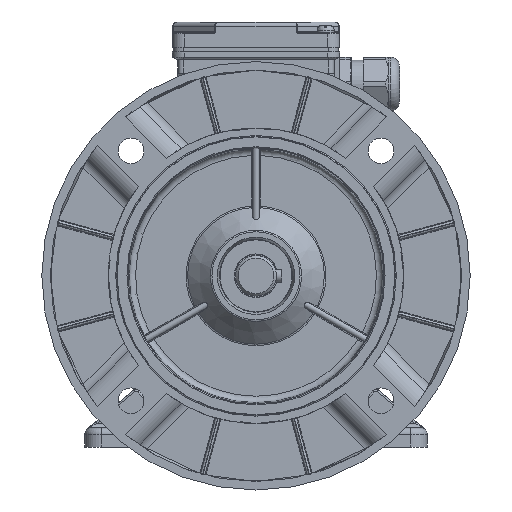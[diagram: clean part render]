
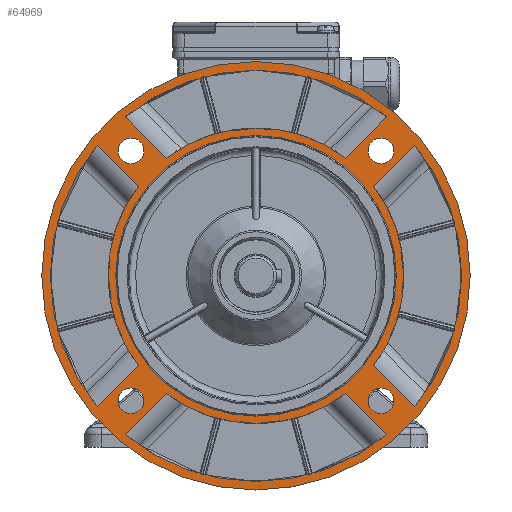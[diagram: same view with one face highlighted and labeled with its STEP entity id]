
A CAD part, left-side view. The second image highlights one B-rep face of the part: STEP entity #64969.
In plain terms, the highlighted planar face has unit normal (-1, 0, 0).
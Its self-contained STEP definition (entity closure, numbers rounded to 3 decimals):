
#4300=LINE('',#99883,#7999);
#4301=LINE('',#99888,#8000);
#4302=LINE('',#99891,#8001);
#4303=LINE('',#99896,#8002);
#4304=LINE('',#99901,#8003);
#4305=LINE('',#99906,#8004);
#4306=LINE('',#99909,#8005);
#4307=LINE('',#99914,#8006);
#7999=VECTOR('',#79109,1000.);
#8000=VECTOR('',#79112,1000.);
#8001=VECTOR('',#79115,1000.);
#8002=VECTOR('',#79118,1000.);
#8003=VECTOR('',#79123,1000.);
#8004=VECTOR('',#79126,1000.);
#8005=VECTOR('',#79129,1000.);
#8006=VECTOR('',#79132,1000.);
#18903=ORIENTED_EDGE('',*,*,#28950,.T.);
#18904=ORIENTED_EDGE('',*,*,#28951,.T.);
#18905=ORIENTED_EDGE('',*,*,#28952,.T.);
#18906=ORIENTED_EDGE('',*,*,#28953,.T.);
#18907=ORIENTED_EDGE('',*,*,#28954,.T.);
#18908=ORIENTED_EDGE('',*,*,#28955,.T.);
#18909=ORIENTED_EDGE('',*,*,#28956,.T.);
#18910=ORIENTED_EDGE('',*,*,#28957,.T.);
#18911=ORIENTED_EDGE('',*,*,#28828,.F.);
#18912=ORIENTED_EDGE('',*,*,#28827,.F.);
#18913=ORIENTED_EDGE('',*,*,#28826,.F.);
#18914=ORIENTED_EDGE('',*,*,#28825,.F.);
#18915=ORIENTED_EDGE('',*,*,#28958,.T.);
#18916=ORIENTED_EDGE('',*,*,#28949,.T.);
#18917=ORIENTED_EDGE('',*,*,#28959,.T.);
#18918=ORIENTED_EDGE('',*,*,#28960,.T.);
#18919=ORIENTED_EDGE('',*,*,#28961,.T.);
#18920=ORIENTED_EDGE('',*,*,#28962,.T.);
#18921=ORIENTED_EDGE('',*,*,#28963,.T.);
#18922=ORIENTED_EDGE('',*,*,#28964,.T.);
#18923=ORIENTED_EDGE('',*,*,#28965,.T.);
#18924=ORIENTED_EDGE('',*,*,#28966,.T.);
#28825=EDGE_CURVE('',#34570,#34570,#37721,.T.);
#28826=EDGE_CURVE('',#34571,#34571,#37722,.T.);
#28827=EDGE_CURVE('',#34572,#34572,#37723,.T.);
#28828=EDGE_CURVE('',#34573,#34573,#37724,.T.);
#28949=EDGE_CURVE('',#34651,#34651,#37738,.T.);
#28950=EDGE_CURVE('',#34652,#34653,#4300,.T.);
#28951=EDGE_CURVE('',#34653,#34654,#37739,.T.);
#28952=EDGE_CURVE('',#34654,#34655,#4301,.T.);
#28953=EDGE_CURVE('',#34655,#34652,#37740,.T.);
#28954=EDGE_CURVE('',#34656,#34657,#4302,.T.);
#28955=EDGE_CURVE('',#34657,#34658,#37741,.T.);
#28956=EDGE_CURVE('',#34658,#34659,#4303,.T.);
#28957=EDGE_CURVE('',#34659,#34656,#37742,.T.);
#28958=EDGE_CURVE('',#34660,#34660,#37743,.F.);
#28959=EDGE_CURVE('',#34661,#34662,#4304,.T.);
#28960=EDGE_CURVE('',#34662,#34663,#37744,.T.);
#28961=EDGE_CURVE('',#34663,#34664,#4305,.T.);
#28962=EDGE_CURVE('',#34664,#34661,#37745,.T.);
#28963=EDGE_CURVE('',#34665,#34666,#4306,.T.);
#28964=EDGE_CURVE('',#34666,#34667,#37746,.T.);
#28965=EDGE_CURVE('',#34667,#34668,#4307,.T.);
#28966=EDGE_CURVE('',#34668,#34665,#37747,.T.);
#34570=VERTEX_POINT('',#99573);
#34571=VERTEX_POINT('',#99576);
#34572=VERTEX_POINT('',#99579);
#34573=VERTEX_POINT('',#99582);
#34651=VERTEX_POINT('',#99881);
#34652=VERTEX_POINT('',#99884);
#34653=VERTEX_POINT('',#99885);
#34654=VERTEX_POINT('',#99887);
#34655=VERTEX_POINT('',#99889);
#34656=VERTEX_POINT('',#99892);
#34657=VERTEX_POINT('',#99893);
#34658=VERTEX_POINT('',#99895);
#34659=VERTEX_POINT('',#99897);
#34660=VERTEX_POINT('',#99900);
#34661=VERTEX_POINT('',#99902);
#34662=VERTEX_POINT('',#99903);
#34663=VERTEX_POINT('',#99905);
#34664=VERTEX_POINT('',#99907);
#34665=VERTEX_POINT('',#99910);
#34666=VERTEX_POINT('',#99911);
#34667=VERTEX_POINT('',#99913);
#34668=VERTEX_POINT('',#99915);
#37721=CIRCLE('',#68869,6.);
#37722=CIRCLE('',#68871,6.);
#37723=CIRCLE('',#68873,6.);
#37724=CIRCLE('',#68875,6.);
#37738=CIRCLE('',#68944,100.);
#37739=CIRCLE('',#68946,69.);
#37740=CIRCLE('',#68947,96.);
#37741=CIRCLE('',#68948,69.);
#37742=CIRCLE('',#68949,96.);
#37743=CIRCLE('',#68950,65.5);
#37744=CIRCLE('',#68951,69.);
#37745=CIRCLE('',#68952,96.);
#37746=CIRCLE('',#68953,69.);
#37747=CIRCLE('',#68954,96.);
#40332=EDGE_LOOP('',(#18903,#18904,#18905,#18906));
#40333=EDGE_LOOP('',(#18907,#18908,#18909,#18910));
#40334=EDGE_LOOP('',(#18911));
#40335=EDGE_LOOP('',(#18912));
#40336=EDGE_LOOP('',(#18913));
#40337=EDGE_LOOP('',(#18914));
#40338=EDGE_LOOP('',(#18915));
#40339=EDGE_LOOP('',(#18916));
#40340=EDGE_LOOP('',(#18917,#18918,#18919,#18920));
#40341=EDGE_LOOP('',(#18921,#18922,#18923,#18924));
#43519=FACE_BOUND('',#40332,.T.);
#43520=FACE_BOUND('',#40333,.T.);
#43521=FACE_BOUND('',#40334,.T.);
#43522=FACE_BOUND('',#40335,.T.);
#43523=FACE_BOUND('',#40336,.T.);
#43524=FACE_BOUND('',#40337,.T.);
#43525=FACE_BOUND('',#40338,.T.);
#43526=FACE_BOUND('',#40339,.T.);
#43527=FACE_BOUND('',#40340,.T.);
#43528=FACE_BOUND('',#40341,.T.);
#45621=PLANE('',#68945);
#64969=ADVANCED_FACE('',(#43519,#43520,#43521,#43522,#43523,#43524,#43525,
#43526,#43527,#43528),#45621,.T.);
#68869=AXIS2_PLACEMENT_3D('',#99572,#78875,#78876);
#68871=AXIS2_PLACEMENT_3D('',#99575,#78879,#78880);
#68873=AXIS2_PLACEMENT_3D('',#99578,#78883,#78884);
#68875=AXIS2_PLACEMENT_3D('',#99581,#78887,#78888);
#68944=AXIS2_PLACEMENT_3D('',#99880,#79105,#79106);
#68945=AXIS2_PLACEMENT_3D('',#99882,#79107,#79108);
#68946=AXIS2_PLACEMENT_3D('',#99886,#79110,#79111);
#68947=AXIS2_PLACEMENT_3D('',#99890,#79113,#79114);
#68948=AXIS2_PLACEMENT_3D('',#99894,#79116,#79117);
#68949=AXIS2_PLACEMENT_3D('',#99898,#79119,#79120);
#68950=AXIS2_PLACEMENT_3D('',#99899,#79121,#79122);
#68951=AXIS2_PLACEMENT_3D('',#99904,#79124,#79125);
#68952=AXIS2_PLACEMENT_3D('',#99908,#79127,#79128);
#68953=AXIS2_PLACEMENT_3D('',#99912,#79130,#79131);
#68954=AXIS2_PLACEMENT_3D('',#99916,#79133,#79134);
#78875=DIRECTION('',(-1.,0.,0.));
#78876=DIRECTION('',(0.,-1.,0.));
#78879=DIRECTION('',(-1.,0.,0.));
#78880=DIRECTION('',(0.,-1.,0.));
#78883=DIRECTION('',(-1.,0.,0.));
#78884=DIRECTION('',(0.,-1.,0.));
#78887=DIRECTION('',(-1.,0.,0.));
#78888=DIRECTION('',(0.,-1.,0.));
#79105=DIRECTION('',(-1.,0.,0.));
#79106=DIRECTION('',(0.,0.,-1.));
#79107=DIRECTION('',(-1.,0.,0.));
#79108=DIRECTION('',(0.,0.,-1.));
#79109=DIRECTION('',(0.,-0.707,-0.707));
#79110=DIRECTION('',(-1.,0.,0.));
#79111=DIRECTION('',(0.,-1.,0.));
#79112=DIRECTION('',(0.,0.707,-0.707));
#79113=DIRECTION('',(1.,0.,0.));
#79114=DIRECTION('',(0.,-1.,0.));
#79115=DIRECTION('',(0.,0.707,0.707));
#79116=DIRECTION('',(-1.,0.,0.));
#79117=DIRECTION('',(0.,1.,0.));
#79118=DIRECTION('',(0.,-0.707,0.707));
#79119=DIRECTION('',(1.,0.,0.));
#79120=DIRECTION('',(0.,1.,0.));
#79121=DIRECTION('',(-1.,0.,0.));
#79122=DIRECTION('',(0.,0.,-1.));
#79123=DIRECTION('',(0.,-0.707,0.707));
#79124=DIRECTION('',(-1.,0.,0.));
#79125=DIRECTION('',(0.,0.,1.));
#79126=DIRECTION('',(0.,-0.707,-0.707));
#79127=DIRECTION('',(1.,0.,0.));
#79128=DIRECTION('',(0.,0.,1.));
#79129=DIRECTION('',(0.,0.707,-0.707));
#79130=DIRECTION('',(-1.,0.,0.));
#79131=DIRECTION('',(0.,0.,-1.));
#79132=DIRECTION('',(0.,0.707,0.707));
#79133=DIRECTION('',(1.,0.,0.));
#79134=DIRECTION('',(0.,0.,-1.));
#99572=CARTESIAN_POINT('',(-44.3,58.336,58.336));
#99573=CARTESIAN_POINT('',(-44.3,52.336,58.336));
#99575=CARTESIAN_POINT('',(-44.3,-58.336,58.336));
#99576=CARTESIAN_POINT('',(-44.3,-64.336,58.336));
#99578=CARTESIAN_POINT('',(-44.3,-58.336,-58.336));
#99579=CARTESIAN_POINT('',(-44.3,-64.336,-58.336));
#99581=CARTESIAN_POINT('',(-44.3,58.336,-58.336));
#99582=CARTESIAN_POINT('',(-44.3,52.336,-58.336));
#99880=CARTESIAN_POINT('',(-44.3,0.,0.));
#99881=CARTESIAN_POINT('',(-44.3,0.,-100.));
#99882=CARTESIAN_POINT('',(-44.3,0.,-65.));
#99883=CARTESIAN_POINT('',(-44.3,53.605,40.403));
#99884=CARTESIAN_POINT('',(-44.3,74.161,60.96));
#99885=CARTESIAN_POINT('',(-44.3,54.943,41.741));
#99886=CARTESIAN_POINT('',(-44.3,0.,0.));
#99887=CARTESIAN_POINT('',(-44.3,54.943,-41.741));
#99888=CARTESIAN_POINT('',(-44.3,73.211,-60.009));
#99889=CARTESIAN_POINT('',(-44.3,74.161,-60.96));
#99890=CARTESIAN_POINT('',(-44.3,0.,0.));
#99891=CARTESIAN_POINT('',(-44.3,-53.605,-40.403));
#99892=CARTESIAN_POINT('',(-44.3,-74.161,-60.96));
#99893=CARTESIAN_POINT('',(-44.3,-54.943,-41.741));
#99894=CARTESIAN_POINT('',(-44.3,0.,0.));
#99895=CARTESIAN_POINT('',(-44.3,-54.943,41.741));
#99896=CARTESIAN_POINT('',(-44.3,-73.211,60.009));
#99897=CARTESIAN_POINT('',(-44.3,-74.161,60.96));
#99898=CARTESIAN_POINT('',(-44.3,0.,0.));
#99899=CARTESIAN_POINT('',(-44.3,0.,0.));
#99900=CARTESIAN_POINT('',(-44.3,0.,-65.5));
#99901=CARTESIAN_POINT('',(-44.3,40.403,-53.605));
#99902=CARTESIAN_POINT('',(-44.3,60.96,-74.161));
#99903=CARTESIAN_POINT('',(-44.3,41.741,-54.943));
#99904=CARTESIAN_POINT('',(-44.3,0.,0.));
#99905=CARTESIAN_POINT('',(-44.3,-41.741,-54.943));
#99906=CARTESIAN_POINT('',(-44.3,-60.009,-73.211));
#99907=CARTESIAN_POINT('',(-44.3,-60.96,-74.161));
#99908=CARTESIAN_POINT('',(-44.3,0.,0.));
#99909=CARTESIAN_POINT('',(-44.3,-40.403,53.605));
#99910=CARTESIAN_POINT('',(-44.3,-60.96,74.161));
#99911=CARTESIAN_POINT('',(-44.3,-41.741,54.943));
#99912=CARTESIAN_POINT('',(-44.3,0.,0.));
#99913=CARTESIAN_POINT('',(-44.3,41.741,54.943));
#99914=CARTESIAN_POINT('',(-44.3,60.009,73.211));
#99915=CARTESIAN_POINT('',(-44.3,60.96,74.161));
#99916=CARTESIAN_POINT('',(-44.3,0.,0.));
